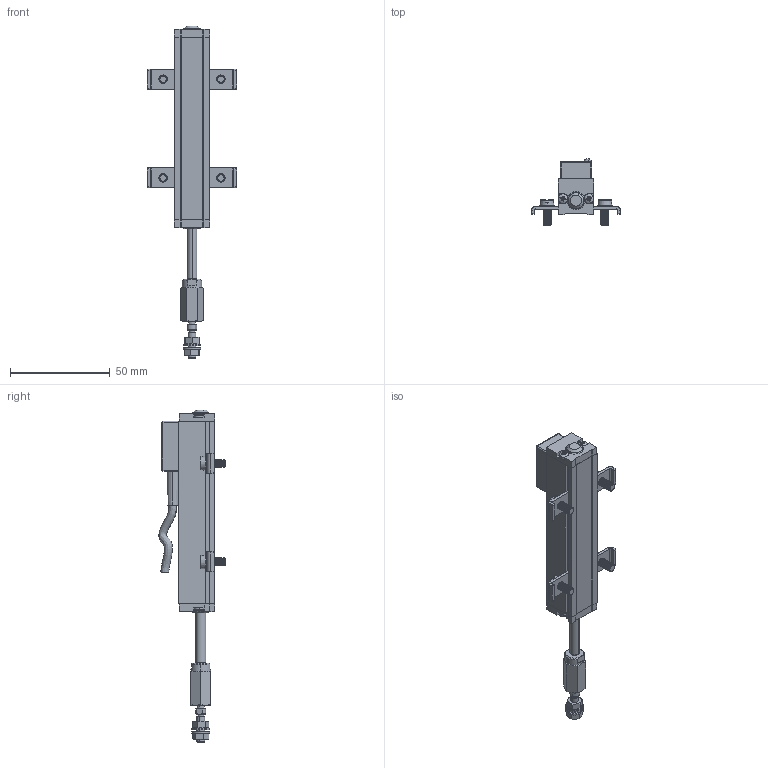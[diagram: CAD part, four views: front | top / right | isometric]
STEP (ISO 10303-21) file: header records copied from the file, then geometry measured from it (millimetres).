
FILE_DESCRIPTION (( 'STEP AP203' ), '1' );
FILE_NAME ('PA-1-F-050.STEP', '2013-02-19T11:33:47', ( 'User' ), ( '' ), 'SwSTEP 2.0', 'SolidWorks 2012', '' );
FILE_SCHEMA (( 'CONFIG_CONTROL_DESIGN' ));
Length unit declared in the file: millimetre
Products named in the file (21): MIM828X_MIM828; CUS065X; PA-1-F-050; MIM797X_MIM797; TES045X; PMI-SLIM cavoX; PAS000X; PRE040X; ALB065X; TAP005X; BUS025X; PKIT020X; MIM500X_MIM500; MIM501X_MIM501; MIM201X_MIM201; ALB100X; CUS100X; MIM892X_MIM892; MIM510X_PreviewCfg; STA029X; TES053X
Assembly tree (34 placements, depth 3):
  PA-1-F-050
    CUS065X
    MIM828X_MIM828  x4
    TES053X
    STA029X  x4
    MIM510X_PreviewCfg  x4
    MIM892X_MIM892  x4
    PKIT020X
      CUS100X
      ALB100X
      MIM201X_MIM201  x2
      MIM501X_MIM501  x2
      MIM500X_MIM500
    BUS025X
    TAP005X
    ALB065X
    PRE040X
    PAS000X
    PMI-SLIM cavoX
    TES045X
    MIM797X_MIM797
Bounding box: 45 x 33.25 x 166.53 mm (x, y, z)
Volume: 40525.3 mm3; surface area: 21869.8 mm2
Topology: 33 solids, 33 shells, 1621 faces, 4069 edges, 2505 vertices
Faces by surface type: cone 758, cylinder 449, plane 350, torus 34, bspline 18, sphere 12
Entity records: 26613 total; most frequent: CARTESIAN_POINT 5201, DIRECTION 4270, ORIENTED_EDGE 3802, EDGE_CURVE 1901, AXIS2_PLACEMENT_3D 1722, VERTEX_POINT 1181, CIRCLE 929, LINE 826
